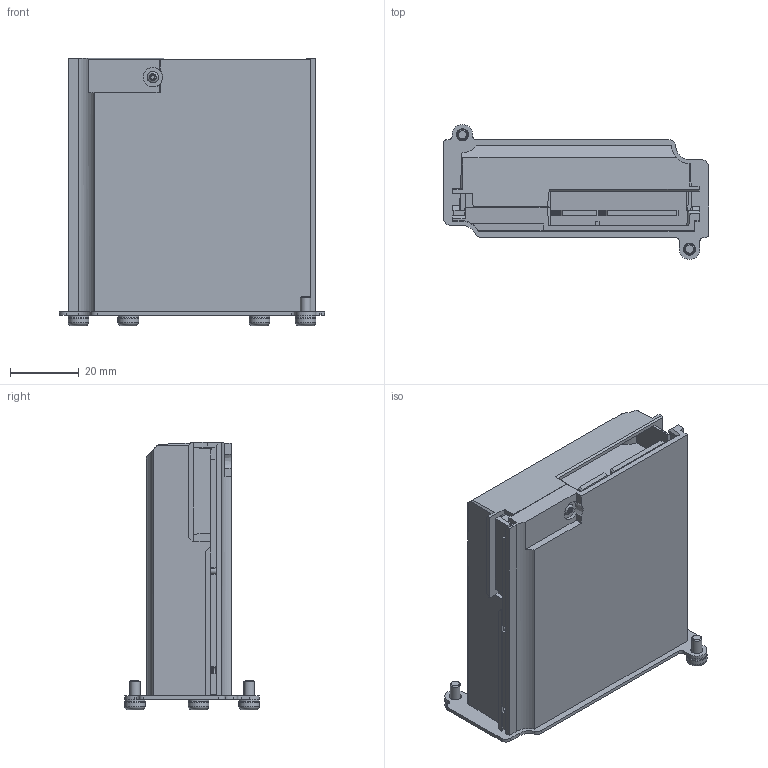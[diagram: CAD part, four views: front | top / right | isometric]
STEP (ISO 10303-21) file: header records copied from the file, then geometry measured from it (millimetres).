
FILE_DESCRIPTION(/* description */ (''),/* implementation_level */ '2;1');
FILE_NAME(/* name */ 'A:\Data\Interfaces\presentations\interf int mod sim\Int mod sim.stp',/* time_stamp */ '2021-01-12T13:24:15+01:00',/* author */ ('Delta'),/* organization */ (''),/* preprocessor_version */ 'ST-DEVELOPER v17.2',/* originating_system */ 'Autodesk Inventor 2019',/* authorisation */ '');
FILE_SCHEMA (('AUTOMOTIVE_DESIGN { 1 0 10303 214 3 1 1 }'));
Length unit declared in the file: millimetre
Products named in the file (1): assembly interface solar sim mod_Shrinkwrap_1
Bounding box: 77 x 39.2 x 77.7 mm (x, y, z)
Volume: 112964.3 mm3; surface area: 23895.6 mm2
Topology: 1 solids, 1 shells, 896 faces, 2427 edges, 1599 vertices
Faces by surface type: plane 635, bspline 185, cylinder 46, cone 22, torus 8
Full cylindrical faces by diameter (mm): 3 x3, 3.2 x2, 3.5 x2, 6 x8
Entity records: 29760 total; most frequent: CARTESIAN_POINT 7397, ORIENTED_EDGE 4846, DIRECTION 3631, EDGE_CURVE 2423, LINE 1803, VECTOR 1803, VERTEX_POINT 1599, EDGE_LOOP 976
